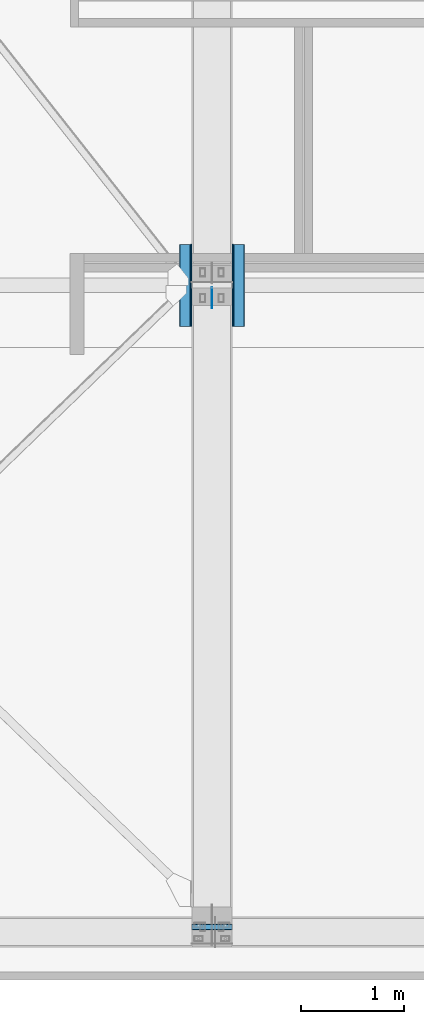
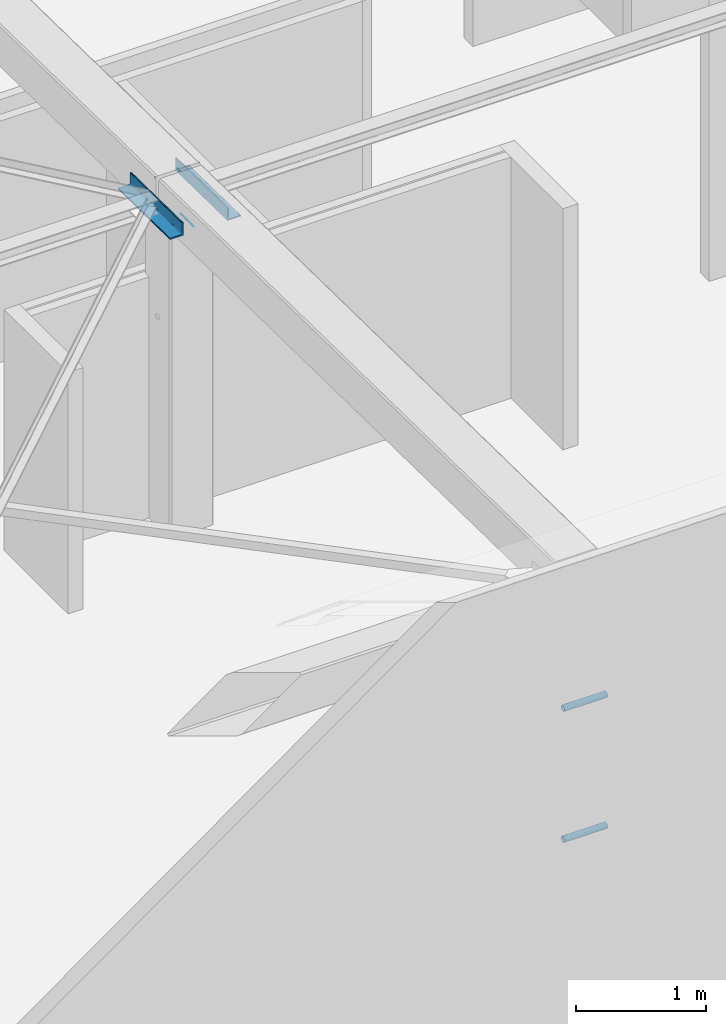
# One storey, part 22 of 186: 5 beams.
"""IFC4X3_ADD2 building model written with IfcOpenShell, lengths in millimetres."""

from ifc_helpers import new_model, si_unit, direction, frame, frame_2d, origin_with_axes, place, context, subcontext, project, spatial, polyline, rectangle, hollow_circle, l_section, outline, extrude, boolean, material, element, save


model = new_model("IFC4X3_ADD2")

# Units and contexts
model_context = context("Model", 3, precision=1e-05, world=origin_with_axes(), true_north=direction((0.0, 1.0)))
body_context = subcontext(model_context, "Body", "Model", "MODEL_VIEW")
ifc_project = project(units=[si_unit("LENGTHUNIT", "METRE", prefix="MILLI"), si_unit("AREAUNIT", "SQUARE_METRE"), si_unit("VOLUMEUNIT", "CUBIC_METRE"), si_unit("PLANEANGLEUNIT", "RADIAN"), si_unit("TIMEUNIT", "SECOND"), si_unit("MASSUNIT", "GRAM")], contexts=[model_context])

# Site, building, storey
site_placement = place(None, origin_with_axes())
site = spatial("IfcSite", under=ifc_project, at=site_placement, Name="Site", CompositionType="ELEMENT")
building_placement = place(site_placement, origin_with_axes())
building = spatial("IfcBuilding", under=site, at=building_placement, Name="IFC Building Story")
storey_placement = place(building_placement, frame((0.0, 0.0, 4370.0), z_axis=(0.0, 0.0, 1.0), x_axis=(1.0, 0.0, 0.0)))
storey = spatial("IfcBuildingStorey", under=building, at=storey_placement, Name="ETAGE 10 (1)", Elevation=4370.0)

# Beams
ifc_material_1 = material(Name="BS_28_Métal")
beam_1_placement = place(storey_placement, frame((39711.1876988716, -8435.014207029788, 3037.75571235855), z_axis=(0.0, 0.9998875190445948, -0.01499830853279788), x_axis=(-1.0, 0.0, 0.0)))
element("IfcBeam", 1, at=beam_1_placement, inside=storey, material=ifc_material_1, Name="C_28_104 - Cornière symétrique:L120x120x12", ObjectType="L120x120x12", context=body_context, shape_type="SweptSolid", body=[
    extrude(l_section(Depth=120.0000000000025, Width=120.0, Thickness=12.00000000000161, FilletRadius=13.0000000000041, EdgeRadius=4.799999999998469, LegSlope=0.0, at=frame_2d((0.0, 5.95523630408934e-12), x_axis=(1.0, 0.0))), origin_with_axes(), (0.0, 0.0, 1.0), 799.9999999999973),
])
beam_2_placement = place(storey_placement, frame((40221.1903432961, -8435.014207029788, 3037.755712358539), z_axis=(0.0, 0.9998875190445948, -0.01499830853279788), x_axis=(0.0, 0.01499830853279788, 0.9998875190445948)))
element("IfcBeam", 2, at=beam_2_placement, inside=storey, material=ifc_material_1, Name="C_28_104 - Cornière symétrique:L120x120x12", ObjectType="L120x120x12", context=body_context, shape_type="SweptSolid", body=[
    extrude(l_section(Depth=120.0000000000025, Width=120.0, Thickness=12.00000000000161, FilletRadius=13.0000000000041, EdgeRadius=4.799999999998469, LegSlope=0.0, at=frame_2d((0.0, 5.95523630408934e-12), x_axis=(1.0, 0.0))), origin_with_axes(), (0.0, 0.0, 1.0), 799.9999999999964),
])
ifc_material_2 = material(Name="STEEL/Accessory_invisible 261")
beam_3_placement = place(storey_placement, frame((39965.6890208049, -8154.95788285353, 2880.05337485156), z_axis=(1.0, 0.0, 0.0), x_axis=(0.0, 0.01548865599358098, 0.9998800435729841)))
element("IfcBeam", 3, at=beam_3_placement, inside=storey, material=ifc_material_2, Name="BEK4", ObjectType="8*1", context=body_context, shape_type="CSG", body=[
    boolean("DIFFERENCE", boolean("DIFFERENCE", extrude(rectangle(XDim=8.00000000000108, YDim=200.024108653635, at=frame_2d((0.0, 5.95523630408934e-12), x_axis=(1.0, 0.0))), origin_with_axes(), (0.0, 0.0, 1.0), 1.0), extrude(outline(polyline([(3.99999999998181, -2.862249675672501e-05), (-3.999999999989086, -2.862249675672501e-05), (-3.999999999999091, 2.862249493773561e-05), (4.000000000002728, 2.862249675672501e-05), (3.99999999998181, -2.862249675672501e-05)])), frame((-1.818989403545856e-12, 100.0120257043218, -7.275957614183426e-12), z_axis=(0.0, 0.0, 1.0), x_axis=(1.0, 0.0, 0.0)), (0.0, 0.0, 1.0), 1.0)), extrude(outline(polyline([(-3.999999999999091, 2.862249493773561e-05), (4.000000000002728, 2.862249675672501e-05), (3.99999999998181, -2.862249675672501e-05), (-3.999999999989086, -2.862249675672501e-05), (-3.999999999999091, 2.862249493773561e-05)])), frame((3.637978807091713e-12, -100.0120257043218, -7.275957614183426e-12), z_axis=(0.0, 0.0, 1.0), x_axis=(1.0, 0.0, 0.0)), (0.0, 0.0, 1.0), 1.0)),
])
ifc_material_3 = material(Name="STEEL/Accessory_PVC")
for number, where, z_axis, x_axis, name in (
    (4, (39774.1889999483, -14265.0, 840.0), (1.0, 0.0, 0.0), (0.0, 0.0, -1.0), "PS13"),
    (5, (39774.1890000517, -14265.0, 2070.0), (1.0, 0.0, 0.0), (0.0, 0.0, -1.0), "PS13"),
):
    element("IfcBeam", number, at=place(storey_placement, frame(where, z_axis=z_axis, x_axis=x_axis)), inside=storey, material=ifc_material_3, Name=name, ObjectType="O56*3", context=body_context, shape_type="SweptSolid", body=[
        extrude(hollow_circle(Radius=28.0, WallThickness=3.0, at=frame_2d((0.0, 5.95523630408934e-12), x_axis=(1.0, 0.0))), origin_with_axes(), (0.0, 0.0, 1.0), 384.0),
    ])

save(model, "model.ifc")
